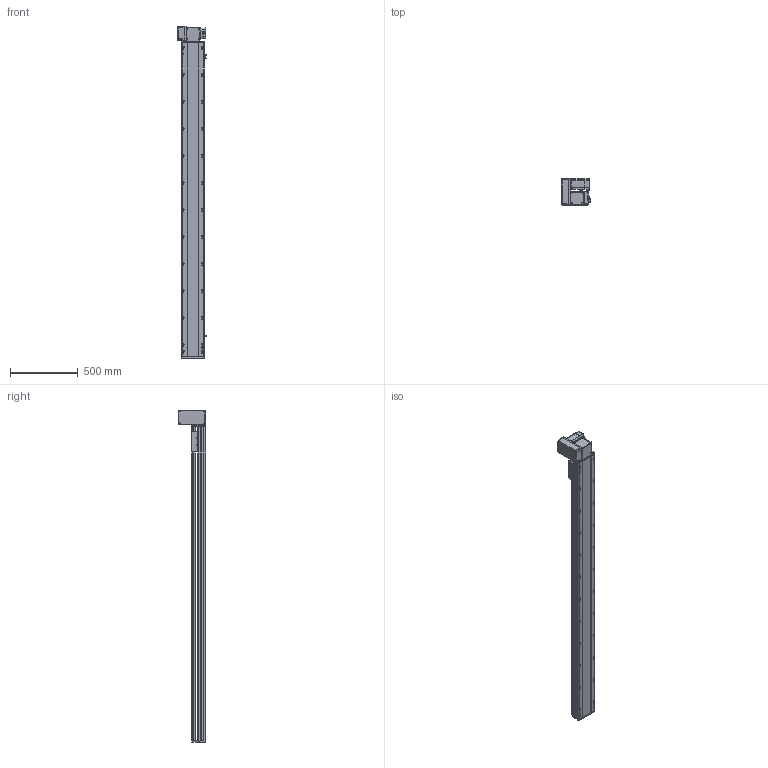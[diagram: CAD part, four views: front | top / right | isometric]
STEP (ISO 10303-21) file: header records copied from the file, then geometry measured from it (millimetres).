
FILE_DESCRIPTION (( 'STEP AP214' ), '1' );
FILE_NAME ('RTB17S-XX-2050-LW-M75-C4.STEP', '2025-12-12T01:11:03', ( '' ), ( '' ), 'SwSTEP 2.0', 'SolidWorks 2018', '' );
FILE_SCHEMA (( 'AUTOMOTIVE_DESIGN' ));
Length unit declared in the file: millimetre
Products named in the file (15): RTB17S-賑釱^RTB17S-XX-XX-LW-M75-C4; RTB17S-L-007奻裔^RTB17S-XX-XX-LW-M75-C4; RTB17-R-011菁釱^RTB17S-XX-XX-LW-M75-C4; RTB22S-GY-008-M75--萇儂啣^RTB17S-LW-々湍釱蚾饜-750W_RTB17S-XX-XX-LW-M75-C4; RTB17S-L-014-T20-P75--々湍釱^RTB17S-LW-々湍釱蚾饜-750W_RTB17S-XX-XX-LW-M75-C4; RTB22S-GY-018P^RTB17S-LW-々湍釱蚾饜-750W_RTB17S-XX-XX-LW-M75-C4; RTB17S-L-001-耜醱啣^RTB17S-XX-XX-LW-M75-C4; RTB22S-GY-005P^RTB17S-LW-々湍釱蚾饜-750W_RTB17S-XX-XX-LW-M75-C4; EE672^RTB17S-XX-XX-LW-M75-C4; RTB17S-LW-々湍釱蚾饜-750W^RTB17S-XX-XX-LW-M75-C4; RTB17S-L-004-賑釱^RTB17S-賑釱_RTB17S-XX-XX-LW-M75-C4; RTB22S-GY-017P^RTB17S-LW-々湍釱蚾饜-750W_RTB17S-XX-XX-LW-M75-C4; 750W萇儂^RTB17S-XX-XX-LW-M75-C4; RTB17S-XX-2050-LW-M75-C4; RTH13-BL-012覜茼え俋离^RTB17S-賑釱_RTB17S-XX-XX-LW-M75-C4
Assembly tree (17 placements, depth 3):
  RTB17S-XX-2050-LW-M75-C4
    RTB17-R-011菁釱^RTB17S-XX-XX-LW-M75-C4
    EE672^RTB17S-XX-XX-LW-M75-C4  x3
    RTB17S-L-001-耜醱啣^RTB17S-XX-XX-LW-M75-C4
    RTB17S-賑釱^RTB17S-XX-XX-LW-M75-C4
      RTB17S-L-004-賑釱^RTB17S-賑釱_RTB17S-XX-XX-LW-M75-C4
      RTH13-BL-012覜茼え俋离^RTB17S-賑釱_RTB17S-XX-XX-LW-M75-C4
    RTB17S-L-007奻裔^RTB17S-XX-XX-LW-M75-C4
    750W萇儂^RTB17S-XX-XX-LW-M75-C4
    RTB17S-LW-々湍釱蚾饜-750W^RTB17S-XX-XX-LW-M75-C4
      RTB17S-L-014-T20-P75--々湍釱^RTB17S-LW-々湍釱蚾饜-750W_RTB17S-XX-XX-LW-M75-C4
      RTB22S-GY-005P^RTB17S-LW-々湍釱蚾饜-750W_RTB17S-XX-XX-LW-M75-C4
      RTB22S-GY-017P^RTB17S-LW-々湍釱蚾饜-750W_RTB17S-XX-XX-LW-M75-C4  x2
      RTB22S-GY-008-M75--萇儂啣^RTB17S-LW-々湍釱蚾饜-750W_RTB17S-XX-XX-LW-M75-C4
      RTB22S-GY-018P^RTB17S-LW-々湍釱蚾饜-750W_RTB17S-XX-XX-LW-M75-C4
Bounding box: 210.4 x 201.5 x 2457.5 mm (x, y, z)
Volume: 18759613.6 mm3; surface area: 3362463.4 mm2
Topology: 17 solids, 17 shells, 2185 faces, 6106 edges, 3950 vertices
Faces by surface type: plane 982, cylinder 787, bspline 294, cone 110, sphere 8, torus 4
Entity records: 62710 total; most frequent: CARTESIAN_POINT 18570, ORIENTED_EDGE 9056, DIRECTION 8402, EDGE_CURVE 4528, AXIS2_PLACEMENT_3D 2970, VERTEX_POINT 2954, LINE 2462, VECTOR 2462
